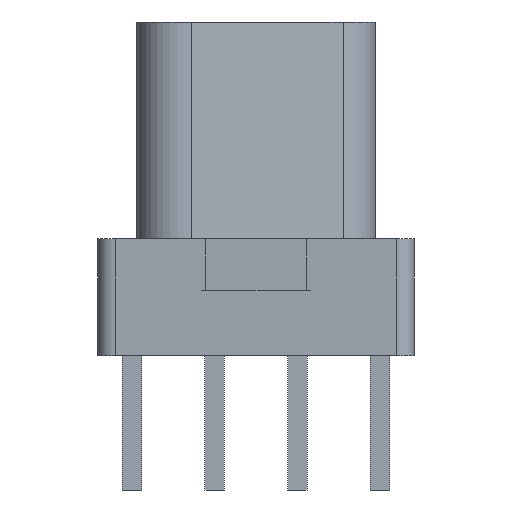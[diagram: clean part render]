
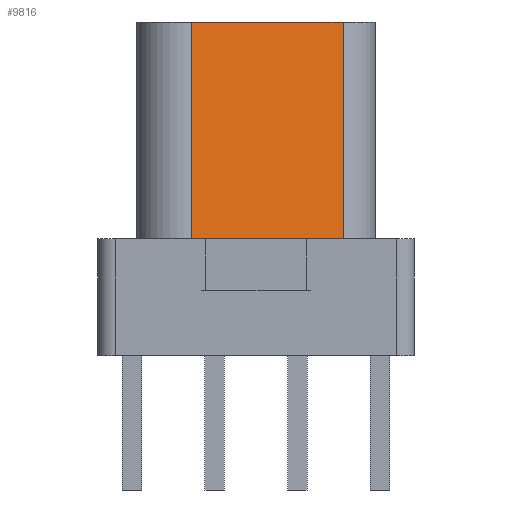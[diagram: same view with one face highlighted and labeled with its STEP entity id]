
A CAD part, left-side view. The second image highlights one B-rep face of the part: STEP entity #9816.
In plain terms, the highlighted planar face has unit normal (-0.966, -0.259, 0).
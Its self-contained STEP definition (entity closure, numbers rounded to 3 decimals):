
#104=DIRECTION('',(0.259,-0.966,0.));
#105=VECTOR('',#104,3.623);
#106=CARTESIAN_POINT('',(-17.291,1.491,0.));
#107=LINE('',#106,#105);
#1029=DIRECTION('',(0.259,-0.966,0.));
#1030=VECTOR('',#1029,3.623);
#1031=CARTESIAN_POINT('',(-17.291,1.491,-5.));
#1032=LINE('',#1031,#1030);
#1033=DIRECTION('',(0.,0.,-1.));
#1034=VECTOR('',#1033,5.);
#1035=CARTESIAN_POINT('',(-17.291,1.491,0.));
#1036=LINE('',#1035,#1034);
#1042=DIRECTION('',(0.,0.,-1.));
#1043=VECTOR('',#1042,5.);
#1044=CARTESIAN_POINT('',(-16.353,-2.009,0.));
#1045=LINE('',#1044,#1043);
#7013=CARTESIAN_POINT('',(-17.291,1.491,0.));
#7015=VERTEX_POINT('',#7013);
#7016=CARTESIAN_POINT('',(-16.353,-2.009,0.));
#7017=VERTEX_POINT('',#7016);
#7069=CARTESIAN_POINT('',(-17.291,1.491,-5.));
#7071=VERTEX_POINT('',#7069);
#7072=CARTESIAN_POINT('',(-16.353,-2.009,-5.));
#7073=VERTEX_POINT('',#7072);
#9804=CARTESIAN_POINT('',(-17.291,1.491,0.));
#9805=DIRECTION('',(-0.966,-0.259,0.));
#9806=DIRECTION('',(0.259,-0.966,0.));
#9807=AXIS2_PLACEMENT_3D('',#9804,#9805,#9806);
#9808=PLANE('',#9807);
#9809=ORIENTED_EDGE('',*,*,#9771,.F.);
#9810=ORIENTED_EDGE('',*,*,#9718,.F.);
#9811=ORIENTED_EDGE('',*,*,#9203,.T.);
#9813=ORIENTED_EDGE('',*,*,#9812,.T.);
#9814=EDGE_LOOP('',(#9809,#9810,#9811,#9813));
#9815=FACE_OUTER_BOUND('',#9814,.F.);
#9816=ADVANCED_FACE('',(#9815),#9808,.T.);
#9203=EDGE_CURVE('',#7015,#7017,#107,.T.);
#9718=EDGE_CURVE('',#7015,#7071,#1036,.T.);
#9771=EDGE_CURVE('',#7071,#7073,#1032,.T.);
#9812=EDGE_CURVE('',#7017,#7073,#1045,.T.);
